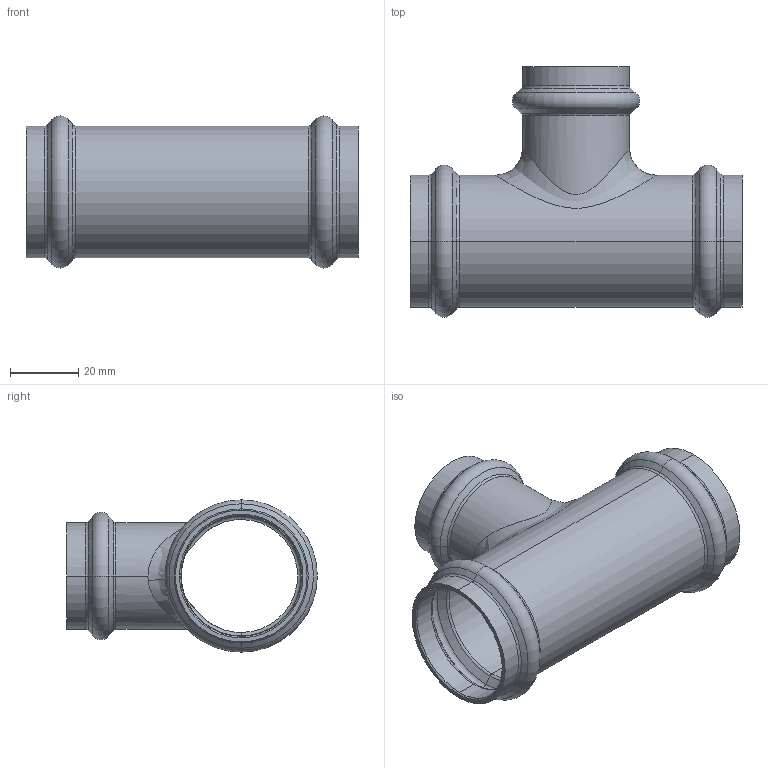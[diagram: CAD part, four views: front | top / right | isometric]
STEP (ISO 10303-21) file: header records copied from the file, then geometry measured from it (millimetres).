
FILE_DESCRIPTION (( 'STEP AP203' ), '1' );
FILE_NAME ('SP5130 Ø35-28-35.STEP', '2017-04-25T15:00:16', ( '' ), ( '' ), 'SwSTEP 2.0', 'SolidWorks 2016', '' );
FILE_SCHEMA (( 'CONFIG_CONTROL_DESIGN' ));
Length unit declared in the file: millimetre
Products named in the file (1): SP5130 Ø35-28-35
Bounding box: 97 x 73.25 x 44.5 mm (x, y, z)
Volume: 28063.1 mm3; surface area: 30176.4 mm2
Topology: 1 solids, 1 shells, 113 faces, 238 edges, 130 vertices
Faces by surface type: torus 42, cylinder 31, cone 30, plane 6, bspline 4
Entity records: 4423 total; most frequent: CARTESIAN_POINT 1874, DIRECTION 596, ORIENTED_EDGE 476, AXIS2_PLACEMENT_3D 268, EDGE_CURVE 238, CIRCLE 158, VERTEX_POINT 130, EDGE_LOOP 120
